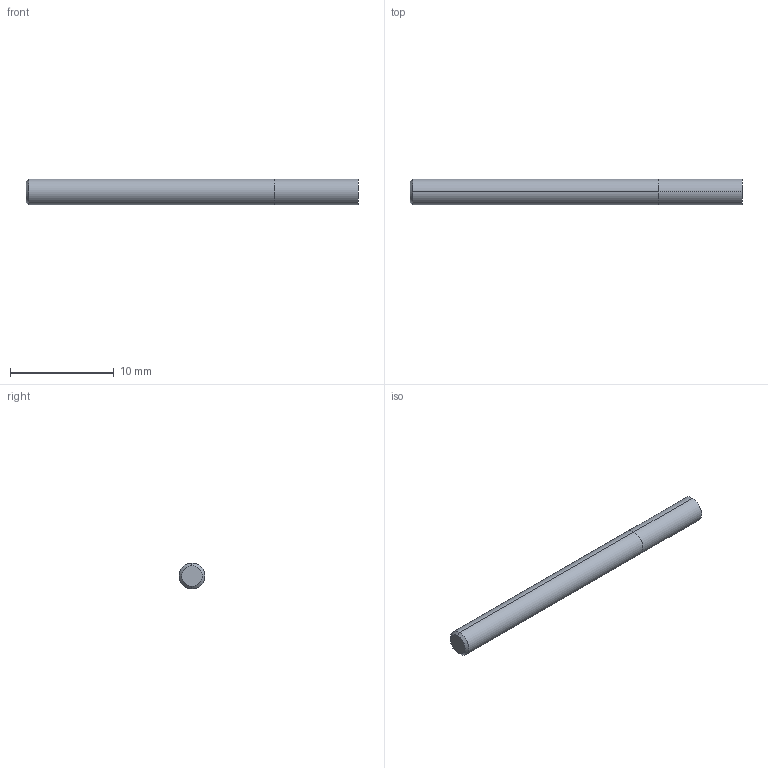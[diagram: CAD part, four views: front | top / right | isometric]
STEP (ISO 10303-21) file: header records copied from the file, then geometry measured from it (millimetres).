
FILE_DESCRIPTION (( 'STEP AP214' ), '1' );
FILE_NAME ('G9424025.STEP', '2018-07-03T03:35:07', ( '' ), ( '' ), 'SwSTEP 2.0', 'SolidWorks 2014', '' );
FILE_SCHEMA (( 'AUTOMOTIVE_DESIGN' ));
Length unit declared in the file: millimetre
Products named in the file (1): G9424025
Bounding box: 32 x 2.5 x 2.5 mm (x, y, z)
Volume: 156.9 mm3; surface area: 269.7 mm2
Topology: 2 solids, 2 shells, 10 faces, 16 edges, 10 vertices
Faces by surface type: cylinder 4, plane 4, cone 2
Entity records: 321 total; most frequent: DIRECTION 48, CARTESIAN_POINT 37, ORIENTED_EDGE 32, AXIS2_PLACEMENT_3D 21, EDGE_CURVE 16, EDGE_LOOP 10, VERTEX_POINT 10, CIRCLE 10
